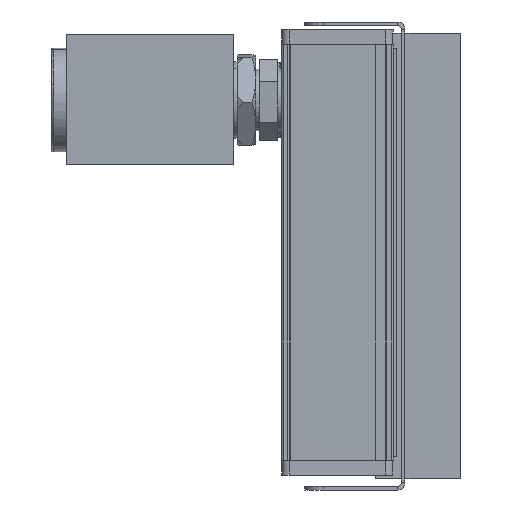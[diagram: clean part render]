
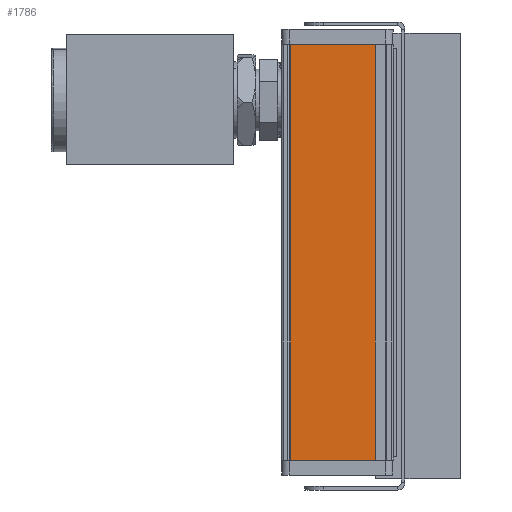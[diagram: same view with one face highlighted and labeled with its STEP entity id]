
A CAD part, left-side view. The second image highlights one B-rep face of the part: STEP entity #1786.
In plain terms, the highlighted planar face has unit normal (-1, 0, 0).
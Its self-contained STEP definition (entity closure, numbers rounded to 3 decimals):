
#301 = EDGE_CURVE ( 'Defeatured_0_88+Defeatured_0_11+Defeatured_0_89+Defeatured_0_10', #7534, #6730, #4182, .T. ) ;
#315 = VECTOR ( 'NONE', #4662, 1000. ) ;
#481 = EDGE_CURVE ( 'Defeatured_0_10+Defeatured_0_88+Defeatured_0_14+Defeatured_0_11', #491, #6730, #5944, .T. ) ;
#491 = VERTEX_POINT ( 'NONE', #4335 ) ;
#541 = ORIENTED_EDGE ( 'NONE', *, *, #4448, .T. ) ;
#951 = PLANE ( 'NONE',  #7628 ) ;
#1375 = FACE_OUTER_BOUND ( 'NONE', #5999, .T. ) ;
#1786 = ADVANCED_FACE ( 'Defeatured_0_88', ( #1375 ), #951, .F. ) ;
#1851 = CARTESIAN_POINT ( 'NONE',  ( -62.364, -0.08, -61.232 ) ) ;
#1915 = VERTEX_POINT ( 'NONE', #4008 ) ;
#2278 = CARTESIAN_POINT ( 'NONE',  ( -62.364, 22.82, 50.768 ) ) ;
#2377 = DIRECTION ( 'NONE',  ( 0., -1., 0. ) ) ;
#2433 = DIRECTION ( 'NONE',  ( 0., -1., 0. ) ) ;
#2606 = VECTOR ( 'NONE', #2433, 1000. ) ;
#2708 = DIRECTION ( 'NONE',  ( 0., 0., -1. ) ) ;
#2878 = ORIENTED_EDGE ( 'NONE', *, *, #4547, .F. ) ;
#2952 = CARTESIAN_POINT ( 'NONE',  ( -62.364, -2.58, 50.768 ) ) ;
#3163 = CARTESIAN_POINT ( 'NONE',  ( -62.364, -0.08, 50.768 ) ) ;
#3585 = ORIENTED_EDGE ( 'NONE', *, *, #481, .F. ) ;
#4008 = CARTESIAN_POINT ( 'NONE',  ( -62.364, 22.82, 50.768 ) ) ;
#4097 = CARTESIAN_POINT ( 'NONE',  ( -62.364, 22.82, -61.232 ) ) ;
#4182 = LINE ( 'NONE', #4775, #2606 ) ;
#4335 = CARTESIAN_POINT ( 'NONE',  ( -62.364, -0.08, 50.768 ) ) ;
#4448 = EDGE_CURVE ( 'Defeatured_0_88+Defeatured_0_89+Defeatured_0_14+Defeatured_0_11', #1915, #7534, #6526, .T. ) ;
#4547 = EDGE_CURVE ( 'Defeatured_0_14+Defeatured_0_88+Defeatured_0_89+Defeatured_0_10', #1915, #491, #4965, .T. ) ;
#4549 = CARTESIAN_POINT ( 'NONE',  ( -62.364, -2.58, 50.768 ) ) ;
#4662 = DIRECTION ( 'NONE',  ( 0., 0., -1. ) ) ;
#4775 = CARTESIAN_POINT ( 'NONE',  ( -62.364, -2.58, -61.232 ) ) ;
#4829 = VECTOR ( 'NONE', #4963, 1000. ) ;
#4963 = DIRECTION ( 'NONE',  ( 0., 0., -1. ) ) ;
#4965 = LINE ( 'NONE', #2952, #7292 ) ;
#5060 = DIRECTION ( 'NONE',  ( 1., 0., 0. ) ) ;
#5944 = LINE ( 'NONE', #3163, #4829 ) ;
#5999 = EDGE_LOOP ( 'NONE', ( #3585, #2878, #541, #7187 ) ) ;
#6526 = LINE ( 'NONE', #2278, #315 ) ;
#6730 = VERTEX_POINT ( 'NONE', #1851 ) ;
#7187 = ORIENTED_EDGE ( 'NONE', *, *, #301, .T. ) ;
#7292 = VECTOR ( 'NONE', #2377, 1000. ) ;
#7534 = VERTEX_POINT ( 'NONE', #4097 ) ;
#7628 = AXIS2_PLACEMENT_3D ( 'NONE', #4549, #5060, #2708 ) ;
